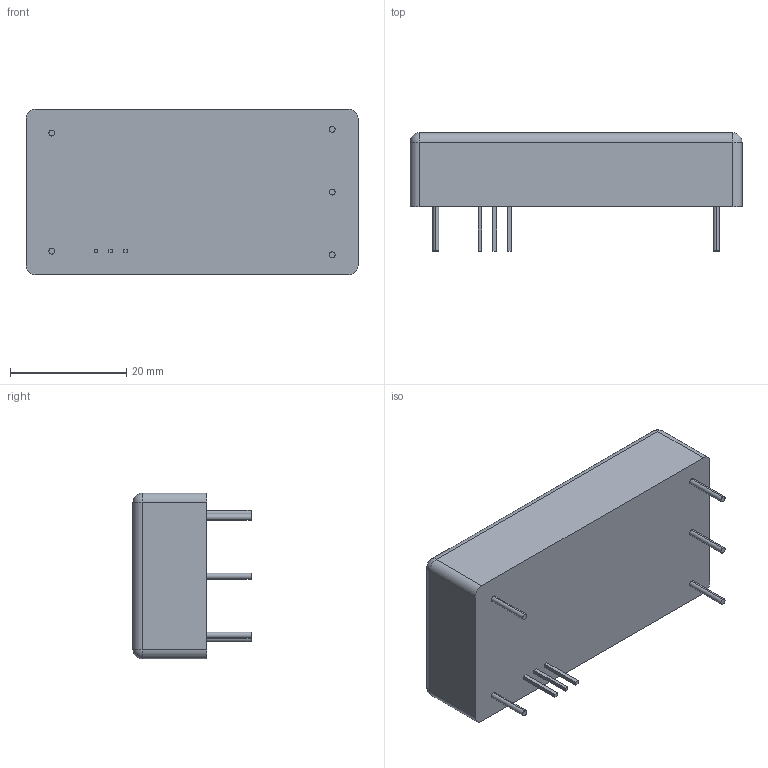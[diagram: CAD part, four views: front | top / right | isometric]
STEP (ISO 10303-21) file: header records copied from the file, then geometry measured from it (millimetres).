
FILE_DESCRIPTION (( 'STEP AP214' ), '1' );
FILE_NAME ('XP EMCO FS.STEP', '2016-08-24T18:50:47', ( '' ), ( '' ), 'SwSTEP 2.0', 'SolidWorks 2014', '' );
FILE_SCHEMA (( 'AUTOMOTIVE_DESIGN' ));
Length unit declared in the file: inch
Products named in the file (1): XP EMCO FS
Bounding box: 57.15 x 20.32 x 28.57 mm (x, y, z)
Volume: 20581.3 mm3; surface area: 5579.1 mm2
Topology: 1 solids, 1 shells, 68 faces, 154 edges, 96 vertices
Faces by surface type: plane 42, cylinder 22, sphere 4
Entity records: 2630 total; most frequent: DIRECTION 332, CARTESIAN_POINT 315, ORIENTED_EDGE 300, EDGE_CURVE 150, AXIS2_PLACEMENT_3D 113, LINE 106, VECTOR 106, VERTEX_POINT 96
